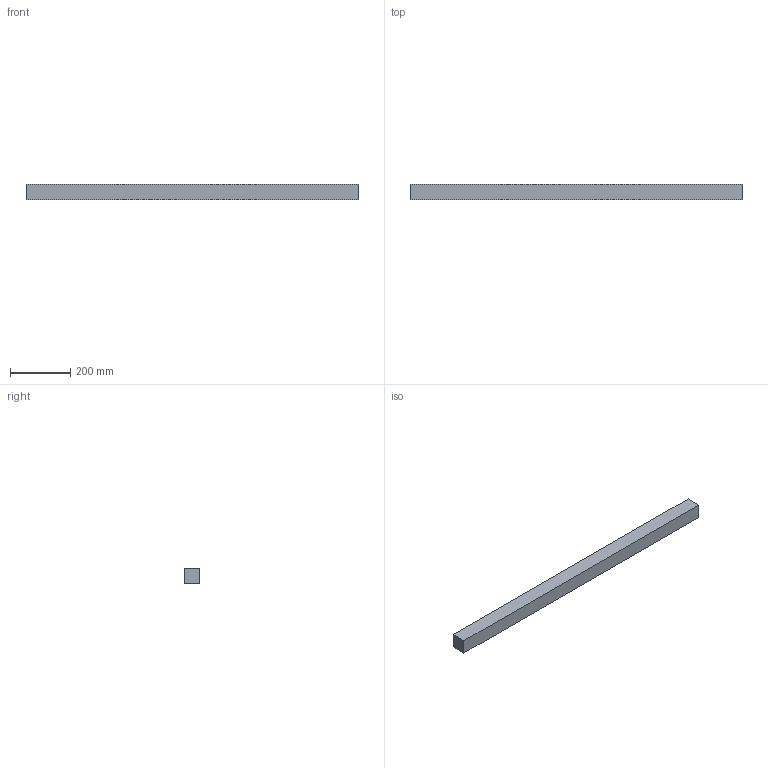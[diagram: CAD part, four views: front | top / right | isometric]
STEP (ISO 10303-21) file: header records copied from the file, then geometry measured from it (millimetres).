
FILE_DESCRIPTION(('Open CASCADE Model'),'2;1');
FILE_NAME('Open CASCADE Shape Model','2026-03-30T20:16:05',('Author'),( 'Open CASCADE'),'Open CASCADE STEP processor 7.8','Open CASCADE 7.8' ,'Unknown');
FILE_SCHEMA(('AUTOMOTIVE_DESIGN { 1 0 10303 214 1 1 1 1 }'));
Length unit declared in the file: millimetre
Products named in the file (1): Open CASCADE STEP translator 7.8 4
Bounding box: 1100 x 50 x 50 mm (x, y, z)
Volume: 2687500 mm3; surface area: 227500 mm2
Topology: 1 solids, 1 shells, 14 faces, 36 edges, 24 vertices
Faces by surface type: plane 14
Entity records: 898 total; most frequent: CARTESIAN_POINT 147, DIRECTION 138, LINE 108, VECTOR 108, ORIENTED_EDGE 72, PCURVE 72, DEFINITIONAL_REPRESENTATION 72, EDGE_CURVE 36
